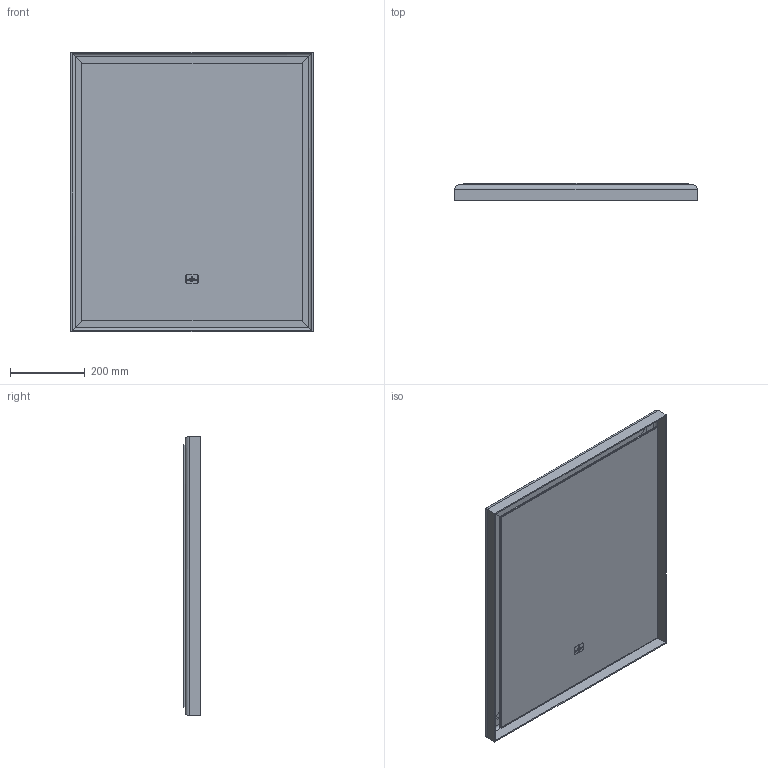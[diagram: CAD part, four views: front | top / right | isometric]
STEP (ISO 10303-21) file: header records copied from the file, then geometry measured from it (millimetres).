
FILE_DESCRIPTION(/* description */ (''),/* implementation_level */ '2;1');
FILE_NAME(/* name */ 'K:\ACAD\PERSPECT\Freisteller\V&B\Subway 3.0\A46365YY.stp',/* time_stamp */ '2020-07-28T15:28:11+02:00',/* author */ ('StegeR'),/* organization */ (''),/* preprocessor_version */ 'ST-DEVELOPER v16.1',/* originating_system */ 'Autodesk Inventor 2016',/* authorisation */ '');
FILE_SCHEMA (('AUTOMOTIVE_DESIGN { 1 0 10303 214 3 1 1 }'));
Length unit declared in the file: millimetre
Products named in the file (1): A46365YY
Bounding box: 650 x 45.5 x 750 mm (x, y, z)
Volume: 3320212.4 mm3; surface area: 1875129.4 mm2
Topology: 35 solids, 35 shells, 802 faces, 2041 edges, 1358 vertices
Faces by surface type: plane 594, cylinder 200, bspline 8
Full cylindrical faces by diameter (mm): 0.488 x2, 4.4 x12, 5.8 x24
Entity records: 24117 total; most frequent: CARTESIAN_POINT 4308, ORIENTED_EDGE 4006, DIRECTION 4005, EDGE_CURVE 2003, LINE 1575, VECTOR 1575, VERTEX_POINT 1358, AXIS2_PLACEMENT_3D 1215
